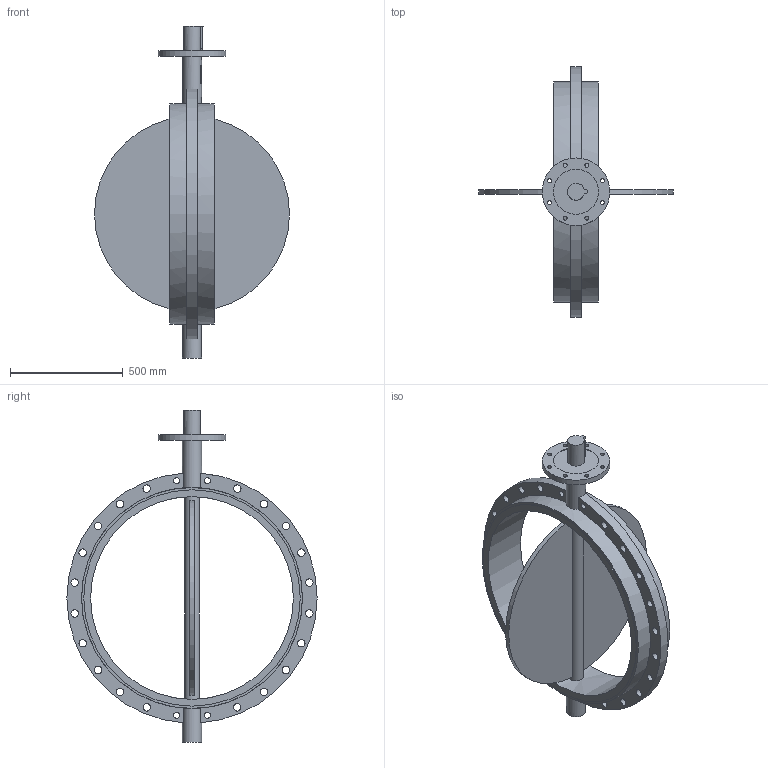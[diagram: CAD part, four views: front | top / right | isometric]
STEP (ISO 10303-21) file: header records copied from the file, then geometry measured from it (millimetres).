
FILE_DESCRIPTION(('STEP AP203'), '1');
FILE_NAME('青蜮铕 017W.YS_DN900_PN10', '', ('UNSPECIFIED'), ('UNSPECIFIED'), 'ASCON STEP Converter 1.6', 'ASCON Math Kernel', '');
FILE_SCHEMA(('CONFIG_CONTROL_DESIGN'));
Length unit declared in the file: millimetre
Bounding box: 864.7 x 1110 x 1473 mm (x, y, z)
Volume: 49870591.6 mm3; surface area: 3468941.1 mm2
Topology: 1 solids, 1 shells, 92 faces, 235 edges, 156 vertices
Faces by surface type: cylinder 56, plane 36
Full cylindrical faces by diameter (mm): 18 x8, 26.211 x4, 33 x20, 65 x1, 75 x1, 85 x2, 200 x1, 300 x1, 900 x1, 960 x2, 980 x2
Entity records: 4603 total; most frequent: CARTESIAN_POINT 1546, DIRECTION 474, ORIENTED_EDGE 384, EDGE_LOOP 214, AXIS2_PLACEMENT_3D 207, EDGE_CURVE 192, VERTEX_POINT 156, FACE_BOUND 133
